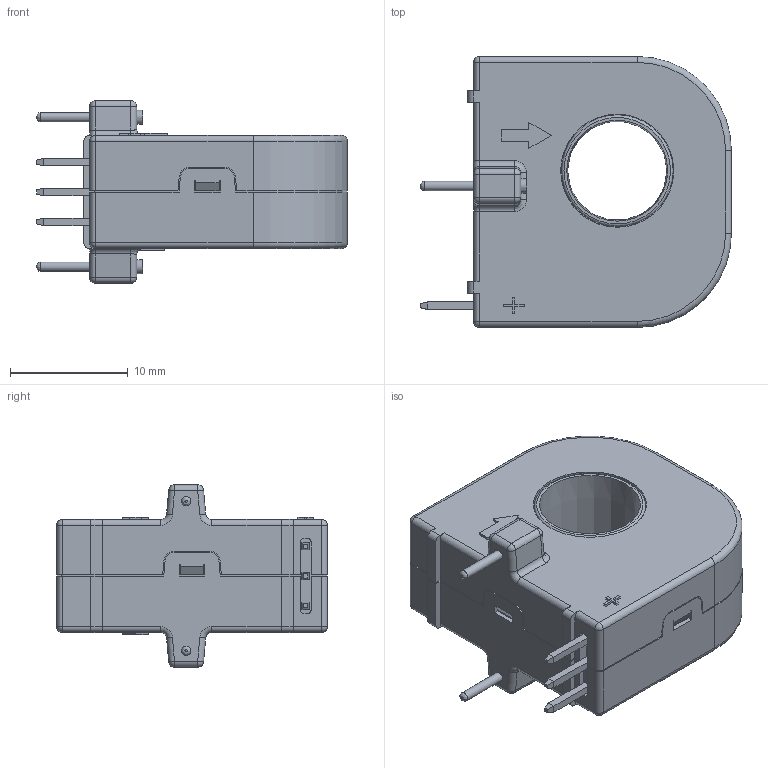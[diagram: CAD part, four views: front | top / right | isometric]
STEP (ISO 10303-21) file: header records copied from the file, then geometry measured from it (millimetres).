
FILE_DESCRIPTION(/* description */ (''),/* implementation_level */ '2;1');
FILE_NAME(/* name */ 'STK-CTS-W 20210917.stp',/* time_stamp */ '2021-09-17T16:41:27+08:00',/* author */ (''),/* organization */ (''),/* preprocessor_version */ 'ST-DEVELOPER v15',/* originating_system */ 'SIEMENS PLM Software NX 8.5',/* authorisation */ '');
FILE_SCHEMA (('AUTOMOTIVE_DESIGN { 1 0 10303 214 3 1 1 1 }'));
Length unit declared in the file: millimetre
Products named in the file (1): LeiX1F9C40C5ekkj
Bounding box: 26.4 x 23 x 15.5 mm (x, y, z)
Volume: 4104 mm3; surface area: 2112.7 mm2
Topology: 1 solids, 1 shells, 288 faces, 746 edges, 463 vertices
Faces by surface type: plane 181, cylinder 76, sphere 12, torus 10, bspline 6, cone 3
Full cylindrical faces by diameter (mm): 0.8 x2, 1.2 x2
Entity records: 8868 total; most frequent: CARTESIAN_POINT 1567, DIRECTION 1460, ORIENTED_EDGE 1440, EDGE_CURVE 720, LINE 546, VECTOR 546, VERTEX_POINT 460, AXIS2_PLACEMENT_3D 457
